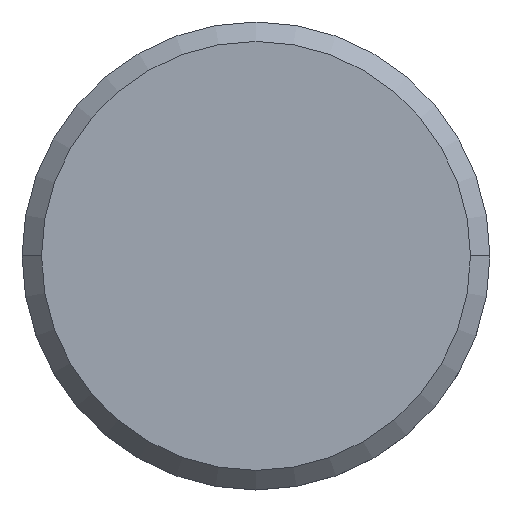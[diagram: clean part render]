
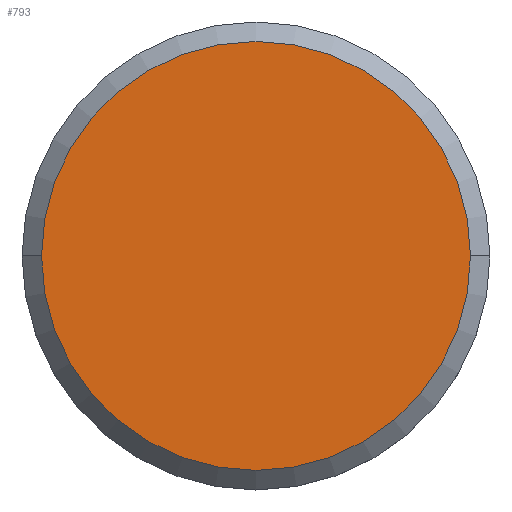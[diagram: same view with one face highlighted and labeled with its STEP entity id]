
A CAD part, top view. The second image highlights one B-rep face of the part: STEP entity #793.
In plain terms, the highlighted planar face has unit normal (0, 0, 1).
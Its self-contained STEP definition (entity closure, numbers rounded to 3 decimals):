
#37 = VERTEX_POINT ( 'NONE', #940 ) ;
#38 = EDGE_CURVE ( 'NONE', #37, #421, #510, .T. ) ;
#71 = DIRECTION ( 'NONE',  ( -1., 0., 0. ) ) ;
#88 = CARTESIAN_POINT ( 'NONE',  ( 11., 0., 0. ) ) ;
#89 = CARTESIAN_POINT ( 'NONE',  ( 0., 0., 0. ) ) ;
#147 = ORIENTED_EDGE ( 'NONE', *, *, #38, .T. ) ;
#163 = CARTESIAN_POINT ( 'NONE',  ( 0., 0., 0. ) ) ;
#182 = DIRECTION ( 'NONE',  ( -1., 0., 0. ) ) ;
#201 = CIRCLE ( 'NONE', #591, 11. ) ;
#231 = CARTESIAN_POINT ( 'NONE',  ( 0., 0., 0. ) ) ;
#238 = AXIS2_PLACEMENT_3D ( 'NONE', #89, #312, #818 ) ;
#312 = DIRECTION ( 'NONE',  ( 0., 0., -1. ) ) ;
#421 = VERTEX_POINT ( 'NONE', #88 ) ;
#507 = DIRECTION ( 'NONE',  ( 0., 0., 1. ) ) ;
#510 = CIRCLE ( 'NONE', #854, 11. ) ;
#522 = DIRECTION ( 'NONE',  ( 0., 0., 1. ) ) ;
#557 = EDGE_CURVE ( 'NONE', #421, #37, #201, .T. ) ;
#587 = EDGE_LOOP ( 'NONE', ( #147, #924 ) ) ;
#591 = AXIS2_PLACEMENT_3D ( 'NONE', #231, #507, #71 ) ;
#671 = PLANE ( 'NONE',  #238 ) ;
#785 = FACE_OUTER_BOUND ( 'NONE', #587, .T. ) ;
#793 = ADVANCED_FACE ( 'NONE', ( #785 ), #671, .F. ) ;
#818 = DIRECTION ( 'NONE',  ( -1., 0., 0. ) ) ;
#854 = AXIS2_PLACEMENT_3D ( 'NONE', #163, #522, #182 ) ;
#924 = ORIENTED_EDGE ( 'NONE', *, *, #557, .T. ) ;
#940 = CARTESIAN_POINT ( 'NONE',  ( -11., 0., 0. ) ) ;
